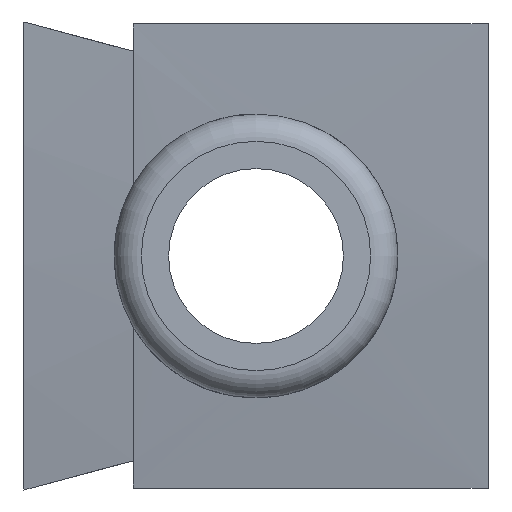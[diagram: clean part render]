
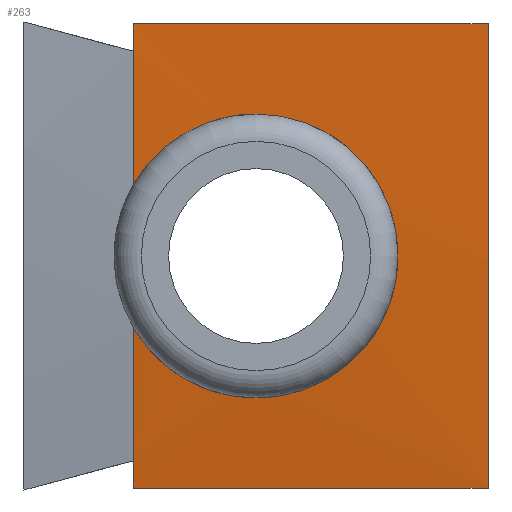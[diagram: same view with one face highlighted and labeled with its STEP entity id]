
A CAD part, left-side view. The second image highlights one B-rep face of the part: STEP entity #263.
In plain terms, the highlighted free-form (B-spline) face has degree [5, 1] with [6, 2] control points.
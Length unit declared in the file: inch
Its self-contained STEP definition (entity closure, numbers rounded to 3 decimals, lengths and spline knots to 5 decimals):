
#22=B_SPLINE_SURFACE_WITH_KNOTS('',5,1,((#462,#463),(#464,#465),(#466,#467),
(#468,#469),(#470,#471),(#472,#473)),.UNSPECIFIED.,.F.,.F.,.F.,(6,6),(2,
2),(0.10705,0.1299),(0.,1.651),.UNSPECIFIED.);
#23=B_SPLINE_CURVE_WITH_KNOTS('',3,(#406,#407,#408,#409,#410,#411,#412,
#413,#414,#415,#416,#417,#418,#419,#420,#421),.UNSPECIFIED.,.F.,.F.,(4,
3,3,3,3,4),(-3.4799,-3.35295,-3.21458,-2.97354,
-2.95353,-2.78614),.UNSPECIFIED.);
#25=B_SPLINE_CURVE_WITH_KNOTS('',3,(#433,#434,#435,#436,#437,#438,#439,
#440,#441,#442,#443,#444,#445,#446,#447,#448,#449,#450,#451,#452,#453,#454,
#455,#456,#457,#458),.UNSPECIFIED.,.F.,.F.,(4,2,2,2,2,2,2,2,2,2,2,2,4),
(-2.78614,-2.69596,-2.44533,-2.18113,
-1.94856,-1.74239,-1.53321,-1.29342,
-1.0298,-0.76951,-0.51604,-0.26544,
0.),.UNSPECIFIED.);
#26=B_SPLINE_CURVE_WITH_KNOTS('',5,(#475,#476,#477,#478,#479,#480),
 .UNSPECIFIED.,.F.,.F.,(6,6),(0.10846,0.1152),
 .UNSPECIFIED.);
#27=B_SPLINE_CURVE_WITH_KNOTS('',5,(#482,#483,#484,#485,#486,#487),
 .UNSPECIFIED.,.F.,.F.,(6,6),(0.10705,0.10846),
 .UNSPECIFIED.);
#28=B_SPLINE_CURVE_WITH_KNOTS('',5,(#491,#492,#493,#494,#495,#496),
 .UNSPECIFIED.,.F.,.F.,(6,6),(0.10705,0.1299),
 .UNSPECIFIED.);
#29=B_SPLINE_CURVE_WITH_KNOTS('',5,(#500,#501,#502,#503,#504,#505),
 .UNSPECIFIED.,.F.,.F.,(6,6),(0.1286,0.1299),
 .UNSPECIFIED.);
#30=B_SPLINE_CURVE_WITH_KNOTS('',5,(#506,#507,#508,#509,#510,#511),
 .UNSPECIFIED.,.F.,.F.,(6,6),(0.12216,0.1286),
 .UNSPECIFIED.);
#46=FACE_OUTER_BOUND('',#63,.T.);
#63=EDGE_LOOP('',(#194,#195,#196,#197,#198,#199,#200,#201,#202));
#79=LINE('',#489,#99);
#80=LINE('',#498,#100);
#99=VECTOR('',#343,0.3937);
#100=VECTOR('',#344,0.3937);
#122=VERTEX_POINT('',#403);
#123=VERTEX_POINT('',#405);
#124=VERTEX_POINT('',#422);
#126=VERTEX_POINT('',#474);
#127=VERTEX_POINT('',#481);
#128=VERTEX_POINT('',#488);
#129=VERTEX_POINT('',#490);
#130=VERTEX_POINT('',#497);
#131=VERTEX_POINT('',#499);
#148=EDGE_CURVE('',#123,#122,#23,.T.);
#150=EDGE_CURVE('',#122,#124,#25,.T.);
#152=EDGE_CURVE('',#126,#124,#26,.T.);
#153=EDGE_CURVE('',#127,#126,#27,.T.);
#154=EDGE_CURVE('',#128,#127,#79,.T.);
#155=EDGE_CURVE('',#128,#129,#28,.T.);
#156=EDGE_CURVE('',#129,#130,#80,.T.);
#157=EDGE_CURVE('',#131,#130,#29,.T.);
#158=EDGE_CURVE('',#123,#131,#30,.T.);
#194=ORIENTED_EDGE('',*,*,#148,.T.);
#195=ORIENTED_EDGE('',*,*,#150,.T.);
#196=ORIENTED_EDGE('',*,*,#152,.F.);
#197=ORIENTED_EDGE('',*,*,#153,.F.);
#198=ORIENTED_EDGE('',*,*,#154,.F.);
#199=ORIENTED_EDGE('',*,*,#155,.T.);
#200=ORIENTED_EDGE('',*,*,#156,.T.);
#201=ORIENTED_EDGE('',*,*,#157,.F.);
#202=ORIENTED_EDGE('',*,*,#158,.F.);
#263=ADVANCED_FACE('',(#46),#22,.T.);
#343=DIRECTION('',(0.,1.,0.));
#344=DIRECTION('',(0.,1.,0.));
#403=CARTESIAN_POINT('',(-1.78383,0.425,2.36494));
#405=CARTESIAN_POINT('',(-1.76974,0.65,2.23523));
#406=CARTESIAN_POINT('Ctrl Pts',(-1.76974,0.65,2.23523));
#407=CARTESIAN_POINT('Ctrl Pts',(-1.77142,0.6417,2.24957));
#408=CARTESIAN_POINT('Ctrl Pts',(-1.77296,0.63203,2.2631));
#409=CARTESIAN_POINT('Ctrl Pts',(-1.77436,0.62114,2.27562));
#410=CARTESIAN_POINT('Ctrl Pts',(-1.77588,0.60926,2.28927));
#411=CARTESIAN_POINT('Ctrl Pts',(-1.77723,0.59598,2.30165));
#412=CARTESIAN_POINT('Ctrl Pts',(-1.7784,0.58151,2.31256));
#413=CARTESIAN_POINT('Ctrl Pts',(-1.78043,0.55631,2.33156));
#414=CARTESIAN_POINT('Ctrl Pts',(-1.78189,0.52785,2.34581));
#415=CARTESIAN_POINT('Ctrl Pts',(-1.78279,0.49754,2.35462));
#416=CARTESIAN_POINT('Ctrl Pts',(-1.78286,0.49502,2.35535));
#417=CARTESIAN_POINT('Ctrl Pts',(-1.78293,0.49249,2.35604));
#418=CARTESIAN_POINT('Ctrl Pts',(-1.783,0.48995,2.3567));
#419=CARTESIAN_POINT('Ctrl Pts',(-1.78355,0.46869,2.36218));
#420=CARTESIAN_POINT('Ctrl Pts',(-1.78383,0.44687,2.36494));
#421=CARTESIAN_POINT('Ctrl Pts',(-1.78383,0.425,2.36494));
#422=CARTESIAN_POINT('',(-1.73462,0.65,1.97466));
#433=CARTESIAN_POINT('Ctrl Pts',(-1.78383,0.425,2.36494));
#434=CARTESIAN_POINT('Ctrl Pts',(-1.78383,0.41322,2.36494));
#435=CARTESIAN_POINT('Ctrl Pts',(-1.78375,0.40143,2.36414));
#436=CARTESIAN_POINT('Ctrl Pts',(-1.78314,0.35713,2.35807));
#437=CARTESIAN_POINT('Ctrl Pts',(-1.78207,0.32572,2.34747));
#438=CARTESIAN_POINT('Ctrl Pts',(-1.7786,0.26698,2.31429));
#439=CARTESIAN_POINT('Ctrl Pts',(-1.77616,0.24058,2.29144));
#440=CARTESIAN_POINT('Ctrl Pts',(-1.77035,0.20082,2.24011));
#441=CARTESIAN_POINT('Ctrl Pts',(-1.76717,0.1866,2.21303));
#442=CARTESIAN_POINT('Ctrl Pts',(-1.76043,0.16918,2.15857));
#443=CARTESIAN_POINT('Ctrl Pts',(-1.75699,0.16501,2.13189));
#444=CARTESIAN_POINT('Ctrl Pts',(-1.74972,0.16499,2.07786));
#445=CARTESIAN_POINT('Ctrl Pts',(-1.74592,0.16924,2.05083));
#446=CARTESIAN_POINT('Ctrl Pts',(-1.73782,0.1872,1.9953));
#447=CARTESIAN_POINT('Ctrl Pts',(-1.73357,0.20205,1.96758));
#448=CARTESIAN_POINT('Ctrl Pts',(-1.72545,0.24285,1.91626));
#449=CARTESIAN_POINT('Ctrl Pts',(-1.72174,0.26938,1.89383));
#450=CARTESIAN_POINT('Ctrl Pts',(-1.71617,0.32939,1.86078));
#451=CARTESIAN_POINT('Ctrl Pts',(-1.71435,0.36219,1.85035));
#452=CARTESIAN_POINT('Ctrl Pts',(-1.71306,0.42916,1.84286));
#453=CARTESIAN_POINT('Ctrl Pts',(-1.71353,0.46258,1.84554));
#454=CARTESIAN_POINT('Ctrl Pts',(-1.71657,0.52624,1.86322));
#455=CARTESIAN_POINT('Ctrl Pts',(-1.71909,0.55586,1.87791));
#456=CARTESIAN_POINT('Ctrl Pts',(-1.72581,0.60958,1.91858));
#457=CARTESIAN_POINT('Ctrl Pts',(-1.73003,0.6327,1.94477));
#458=CARTESIAN_POINT('Ctrl Pts',(-1.73462,0.65,1.97466));
#462=CARTESIAN_POINT('Ctrl Pts',(-1.68248,0.,1.67994));
#463=CARTESIAN_POINT('Ctrl Pts',(-1.68248,0.65,1.67994));
#464=CARTESIAN_POINT('Ctrl Pts',(-1.71511,0.,1.84155));
#465=CARTESIAN_POINT('Ctrl Pts',(-1.71511,0.65,1.84155));
#466=CARTESIAN_POINT('Ctrl Pts',(-1.74302,0.,2.0091));
#467=CARTESIAN_POINT('Ctrl Pts',(-1.74302,0.65,2.0091));
#468=CARTESIAN_POINT('Ctrl Pts',(-1.76617,0.,2.18088));
#469=CARTESIAN_POINT('Ctrl Pts',(-1.76617,0.65,2.18088));
#470=CARTESIAN_POINT('Ctrl Pts',(-1.78464,0.,2.35505));
#471=CARTESIAN_POINT('Ctrl Pts',(-1.78464,0.65,2.35505));
#472=CARTESIAN_POINT('Ctrl Pts',(-1.79874,0.,2.52994));
#473=CARTESIAN_POINT('Ctrl Pts',(-1.79874,0.65,2.52994));
#474=CARTESIAN_POINT('',(-1.69235,0.65,1.72994));
#475=CARTESIAN_POINT('Ctrl Pts',(-1.69235,0.65,1.72994));
#476=CARTESIAN_POINT('Ctrl Pts',(-1.70162,0.65,1.778));
#477=CARTESIAN_POINT('Ctrl Pts',(-1.71049,0.65,1.82654));
#478=CARTESIAN_POINT('Ctrl Pts',(-1.71894,0.65,1.87553));
#479=CARTESIAN_POINT('Ctrl Pts',(-1.72698,0.65,1.92491));
#480=CARTESIAN_POINT('Ctrl Pts',(-1.73462,0.65,1.97466));
#481=CARTESIAN_POINT('',(-1.68248,0.65,1.67994));
#482=CARTESIAN_POINT('Ctrl Pts',(-1.68248,0.65,1.67994));
#483=CARTESIAN_POINT('Ctrl Pts',(-1.68449,0.65,1.6899));
#484=CARTESIAN_POINT('Ctrl Pts',(-1.68648,0.65,1.69988));
#485=CARTESIAN_POINT('Ctrl Pts',(-1.68845,0.65,1.70988));
#486=CARTESIAN_POINT('Ctrl Pts',(-1.69041,0.65,1.7199));
#487=CARTESIAN_POINT('Ctrl Pts',(-1.69235,0.65,1.72994));
#488=CARTESIAN_POINT('',(-1.68248,0.,1.67994));
#489=CARTESIAN_POINT('',(-1.68248,0.,1.67994));
#490=CARTESIAN_POINT('',(-1.79874,0.,2.52994));
#491=CARTESIAN_POINT('Ctrl Pts',(-1.68248,0.,1.67994));
#492=CARTESIAN_POINT('Ctrl Pts',(-1.71511,0.,1.84155));
#493=CARTESIAN_POINT('Ctrl Pts',(-1.74302,0.,2.0091));
#494=CARTESIAN_POINT('Ctrl Pts',(-1.76617,0.,2.18088));
#495=CARTESIAN_POINT('Ctrl Pts',(-1.78464,0.,2.35505));
#496=CARTESIAN_POINT('Ctrl Pts',(-1.79874,0.,2.52994));
#497=CARTESIAN_POINT('',(-1.79874,0.65,2.52994));
#498=CARTESIAN_POINT('',(-1.79874,0.,2.52994));
#499=CARTESIAN_POINT('',(-1.79457,0.65,2.47994));
#500=CARTESIAN_POINT('Ctrl Pts',(-1.79457,0.65,2.47994));
#501=CARTESIAN_POINT('Ctrl Pts',(-1.79543,0.65,2.48994));
#502=CARTESIAN_POINT('Ctrl Pts',(-1.79628,0.65,2.49993));
#503=CARTESIAN_POINT('Ctrl Pts',(-1.79712,0.65,2.50993));
#504=CARTESIAN_POINT('Ctrl Pts',(-1.79794,0.65,2.51994));
#505=CARTESIAN_POINT('Ctrl Pts',(-1.79874,0.65,2.52994));
#506=CARTESIAN_POINT('Ctrl Pts',(-1.76974,0.65,2.23523));
#507=CARTESIAN_POINT('Ctrl Pts',(-1.77543,0.65,2.28386));
#508=CARTESIAN_POINT('Ctrl Pts',(-1.78075,0.65,2.33269));
#509=CARTESIAN_POINT('Ctrl Pts',(-1.78571,0.65,2.38167));
#510=CARTESIAN_POINT('Ctrl Pts',(-1.79031,0.65,2.43076));
#511=CARTESIAN_POINT('Ctrl Pts',(-1.79457,0.65,2.47994));
